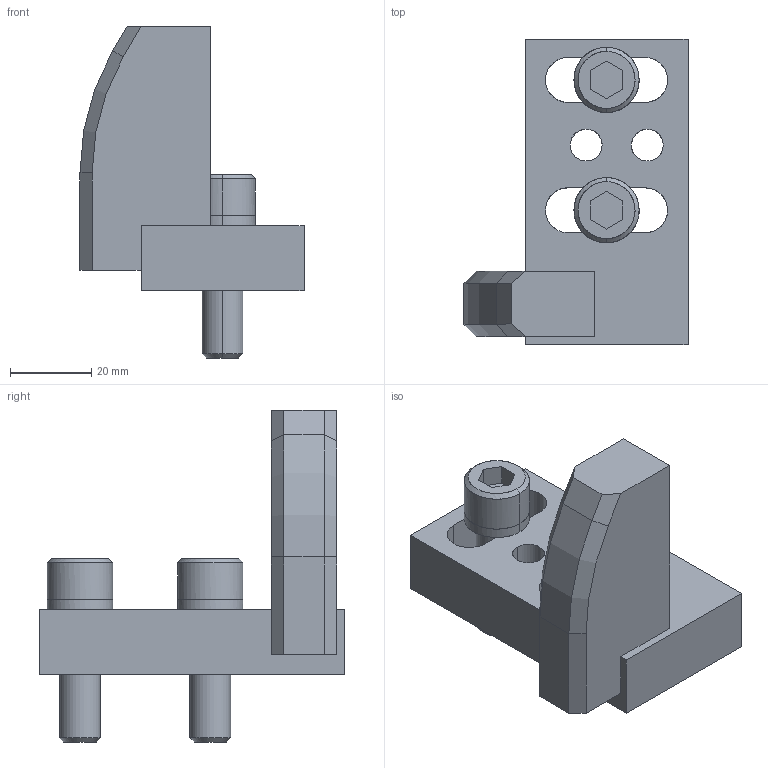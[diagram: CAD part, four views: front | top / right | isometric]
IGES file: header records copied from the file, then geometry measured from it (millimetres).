
Global section: file name: E:\UnigraphicsGraphicData\MISUMI_PRESS-PARTS\IGES\3d_enstl-65-20-m10_01451_r00.igs; native system: NX V5.0; preprocessor: UGS NX IGES V5.0; author: MISUMI; date: 20110105.160632; units: millimetre
Bounding box: 55 x 75 x 81.5 mm (x, y, z)
Surface area: 21308.9 mm2 (no closed solid volume)
Topology: 0 solids, 0 shells, 80 faces, 517 edges, 517 vertices
Faces by surface type: bspline 80
